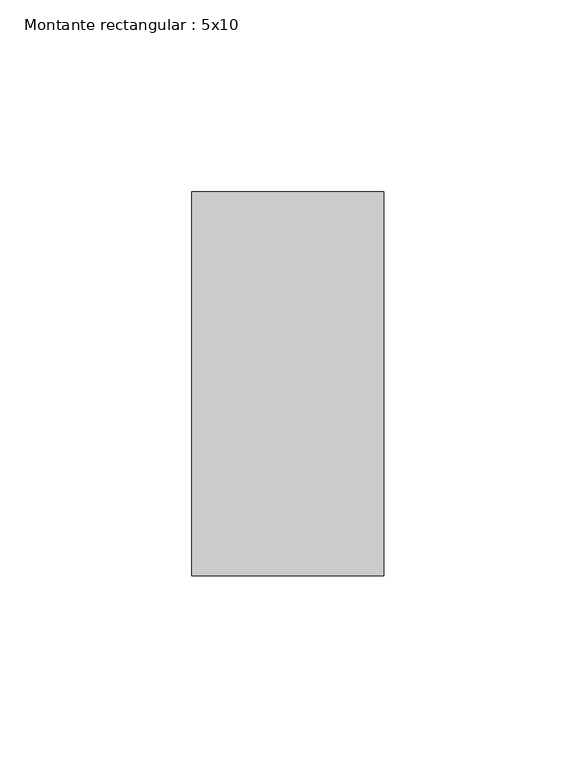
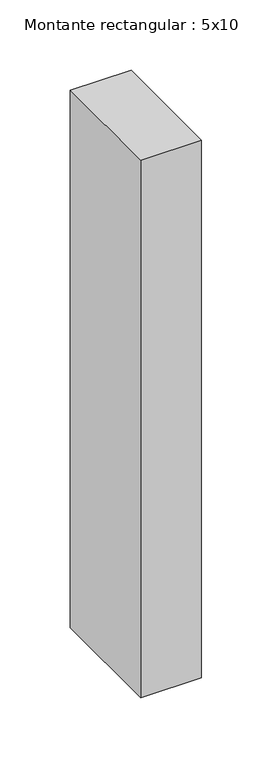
"""IFC4 building model written with IfcOpenShell, lengths in millimetres: member geometry, Montante rectangular : 5x10."""

import ifcopenshell
import ifcopenshell.guid

model = None  # the IFC model being written
_history = None  # IfcOwnerHistory: only IFC2X3 demands one
_inside = {}  # id of a spatial element -> (the spatial element, [elements in it])
_under = {}  # id of a project, library or spatial element -> (it, [spatial elements below it])
_declared = {}  # id of a project -> (the project, [libraries it declares])
_typed = {}  # id of a type object -> (the type object, [elements of that type])
_made_of = {}  # id of a material, layer set ... -> (it, [elements and type objects made of it])


def new_model(schema):
    """Start an empty IFC model of exactly this schema.

    Asked for "IFC4X3", IfcOpenShell would pick the latest addendum, in which some entities
    have other attributes; the version numbers below select the first issue.
    IFC2X3 requires an IfcOwnerHistory on every rooted entity: one is made here for all.
    """
    global model, _history
    if schema == "IFC4X3":
        model = ifcopenshell.file(schema_version=(4, 3, 0, 0))
    else:
        model = ifcopenshell.file(schema=schema)
    _inside.clear()
    _under.clear()
    _declared.clear()
    _typed.clear()
    _made_of.clear()
    _history = None
    if model.schema == "IFC2X3":
        org = make("IfcOrganization", Name="unknown")
        user = make(
            "IfcPersonAndOrganization",
            ThePerson=make("IfcPerson", FamilyName="unknown"),
            TheOrganization=org,
        )
        app = make(
            "IfcApplication",
            ApplicationDeveloper=org,
            Version="unknown",
            ApplicationFullName="unknown",
            ApplicationIdentifier="unknown",
        )
        _history = make(
            "IfcOwnerHistory",
            OwningUser=user,
            OwningApplication=app,
            ChangeAction="ADDED",
            CreationDate=0,
        )
    return model


def make(cls, **values):
    """One entity of the class cls with the attributes given. An attribute that is None is left unset."""
    return model.create_entity(
        cls, **{name: value for name, value in values.items() if value is not None}
    )


def rooted(cls, **values):
    """An entity with a GlobalId (a new one), such as an element, a storey or a relation."""
    return make(cls, GlobalId=ifcopenshell.guid.new(), OwnerHistory=_history, **values)


def si_unit(unit_type, name, prefix=None):
    """IfcSIUnit, for example si_unit("LENGTHUNIT", "METRE", prefix="MILLI")."""
    return make("IfcSIUnit", UnitType=unit_type, Prefix=prefix, Name=name)


def assignment(units):
    """IfcUnitAssignment: the units of a project."""
    return None if units is None else make("IfcUnitAssignment", Units=units)


def point(xyz):
    """IfcCartesianPoint."""
    return None if xyz is None else make("IfcCartesianPoint", Coordinates=xyz)


def direction(xyz):
    """IfcDirection."""
    return None if xyz is None else make("IfcDirection", DirectionRatios=xyz)


def frame(location, z_axis=None, x_axis=None):
    """IfcAxis2Placement3D, a coordinate frame: its origin and axes. An axis left out is left unset."""
    return make(
        "IfcAxis2Placement3D",
        Location=point(location),
        Axis=direction(z_axis),
        RefDirection=direction(x_axis),
    )


def origin():
    """The frame at (0, 0, 0) with its axes left unset."""
    return frame((0.0, 0.0, 0.0))


def place(relative_to, where):
    """IfcLocalPlacement: puts the frame where relative to a parent placement (None: the world)."""
    return make(
        "IfcLocalPlacement", PlacementRelTo=relative_to, RelativePlacement=where
    )


def context(
    kind, dimensions, precision=None, world=None, true_north=None, identifier=None
):
    """IfcGeometricRepresentationContext, for example the 3D "Model" context."""
    return make(
        "IfcGeometricRepresentationContext",
        ContextIdentifier=identifier,
        ContextType=kind,
        CoordinateSpaceDimension=dimensions,
        Precision=precision,
        WorldCoordinateSystem=world,
        TrueNorth=true_north,
    )


def project(units=None, contexts=None):
    """IfcProject with its units and contexts."""
    return rooted(
        "IfcProject",
        Name="project",
        RepresentationContexts=contexts,
        UnitsInContext=assignment(units),
    )


def spatial(cls, under=None, at=None, **own):
    """A site, building, storey or space (cls), placed at a placement, below another one or the project."""
    s = rooted(cls, ObjectPlacement=at, **own)
    if under is not None:
        _under.setdefault(under.id(), (under, []))[1].append(s)
    return s


def polyline(points):
    """IfcPolyline through the points."""
    return make("IfcPolyline", Points=[point(p) for p in points])


def outline(outer, holes=None, kind="AREA"):
    """IfcArbitraryClosedProfileDef: a profile drawn as a closed curve; with holes, ...WithVoids."""
    if holes is None:
        return make("IfcArbitraryClosedProfileDef", ProfileType=kind, OuterCurve=outer)
    return make(
        "IfcArbitraryProfileDefWithVoids",
        ProfileType=kind,
        OuterCurve=outer,
        InnerCurves=holes,
    )


def extrude(swept, where, along, depth):
    """IfcExtrudedAreaSolid: the profile swept, set in the frame where, extruded along a direction by depth."""
    return make(
        "IfcExtrudedAreaSolid",
        SweptArea=swept,
        Position=where,
        ExtrudedDirection=direction(along),
        Depth=depth,
    )


def shape(context_of_items, identifier, shape_type, items):
    """IfcShapeRepresentation: the items that make up one representation, for example the "Body"."""
    return make(
        "IfcShapeRepresentation",
        ContextOfItems=context_of_items,
        RepresentationIdentifier=identifier,
        RepresentationType=shape_type,
        Items=items,
    )


def source(mapping_origin, context_of_items, identifier, shape_type, items):
    """IfcRepresentationMap: a shape defined once, which mapped items show again and again."""
    return make(
        "IfcRepresentationMap",
        MappingOrigin=mapping_origin,
        MappedRepresentation=shape(context_of_items, identifier, shape_type, items),
    )


def transform(
    local_origin,
    x_axis=None,
    y_axis=None,
    z_axis=None,
    scale=None,
    scale2=None,
    scale3=None,
    uniform=True,
):
    """IfcCartesianTransformationOperator3D, or its non-uniform kind. x_axis, y_axis, z_axis: its Axis1, 2, 3."""
    if uniform:
        return make(
            "IfcCartesianTransformationOperator3D",
            Axis1=direction(x_axis),
            Axis2=direction(y_axis),
            LocalOrigin=point(local_origin),
            Scale=scale,
            Axis3=direction(z_axis),
        )
    return make(
        "IfcCartesianTransformationOperator3DnonUniform",
        Axis1=direction(x_axis),
        Axis2=direction(y_axis),
        LocalOrigin=point(local_origin),
        Scale=scale,
        Axis3=direction(z_axis),
        Scale2=scale2,
        Scale3=scale3,
    )


def mapped(mapping_source, mapping_target):
    """IfcMappedItem: shows the shape of a source again, moved by a transform."""
    return make(
        "IfcMappedItem", MappingSource=mapping_source, MappingTarget=mapping_target
    )


def made_of(thing, what):
    """Note that an element or type object is made of a material, layer set ...; save() writes the relation."""
    if what is not None:
        _made_of.setdefault(what.id(), (what, []))[1].append(thing)
    return thing


def element(
    cls,
    number,
    at=None,
    inside=None,
    cuts=None,
    type_object=None,
    material=None,
    context=None,
    identifier="Body",
    shape_type=None,
    held_by="IfcProductDefinitionShape",
    body=None,
    shapes=None,
    **own,
):
    """One element of the class cls, such as IfcWall. Its Tag is "e" and its number.

    at: its placement. inside: the storey or other place that contains it. cuts: it is an
    opening in that element (IfcRelVoidsElement). A single representation is given by context,
    identifier, shape_type and body (its items); several are given by shapes. held_by: the class
    of the entity that holds the representations. save() writes the other relations.
    """
    e = rooted(cls, Tag="e%d" % number, ObjectPlacement=at, **own)
    if body is not None:
        shapes = [shape(context, identifier, shape_type, body)]
    if shapes is not None:
        e.Representation = make(held_by, Representations=shapes)
    if inside is not None:
        _inside.setdefault(inside.id(), (inside, []))[1].append(e)
    if cuts is not None:
        rooted(
            "IfcRelVoidsElement", RelatingBuildingElement=cuts, RelatedOpeningElement=e
        )
    if type_object is not None:
        _typed.setdefault(type_object.id(), (type_object, []))[1].append(e)
    return made_of(e, material)


def aggregate(whole, parts):
    """IfcRelAggregates: a whole, such as a stair, and the parts it consists of."""
    return rooted("IfcRelAggregates", RelatingObject=whole, RelatedObjects=parts)


def save(model, path):
    """Write the relations noted so far, then the file.

    IfcRelAggregates (storeys below a building ...), IfcRelContainedInSpatialStructure (elements
    in a storey), IfcRelDefinesByType, IfcRelAssociatesMaterial and IfcRelDeclares: one each for
    every whole, place, type object, material and project.
    """
    for whole, parts in _under.values():
        aggregate(whole, parts)
    for where, things in _inside.values():
        rooted(
            "IfcRelContainedInSpatialStructure",
            RelatedElements=things,
            RelatingStructure=where,
        )
    for kind, things in _typed.values():
        rooted("IfcRelDefinesByType", RelatedObjects=things, RelatingType=kind)
    for what, things in _made_of.values():
        rooted("IfcRelAssociatesMaterial", RelatedObjects=things, RelatingMaterial=what)
    for by, libraries in _declared.values():
        rooted("IfcRelDeclares", RelatingContext=by, RelatedDefinitions=libraries)
    model.write(path)


def montante_rectangular_5x10_1c76f6bb(model_context):
    return source(origin(), model_context, "Body", "SweptSolid", [
        extrude(outline(polyline([(25.0, 50.0), (25.0, -50.0), (-25.0, -50.0), (-25.0, 50.0), (25.0, 50.0)])), frame((0.0, 0.0, -466.7675914), z_axis=(0.0, 0.0, 1.0), x_axis=(1.0, 0.0, 0.0)), (0.0, 0.0, 1.0), 466.7675914),
    ])


if __name__ == "__main__":
    model = new_model("IFC4")
    model_context = context("Model", 3, world=origin())
    ifc_project = project(units=[si_unit("LENGTHUNIT", "METRE", prefix="MILLI")], contexts=[model_context])
    site = spatial("IfcSite", under=ifc_project)
    building = spatial("IfcBuilding", under=site)
    placement = place(None, origin())
    montante_rectangular_5x10_shape = montante_rectangular_5x10_1c76f6bb(model_context)
    element("IfcMember", 1, ObjectType="Montante rectangular : 5x10", at=placement, inside=building, context=model_context, shape_type="MappedRepresentation", body=[
        mapped(montante_rectangular_5x10_shape, transform((0.0, 0.0, 0.0), x_axis=(1.0, 0.0, 0.0), y_axis=(0.0, 1.0, 0.0), z_axis=(0.0, 0.0, 1.0))),
    ])
    save(model, "model.ifc")
